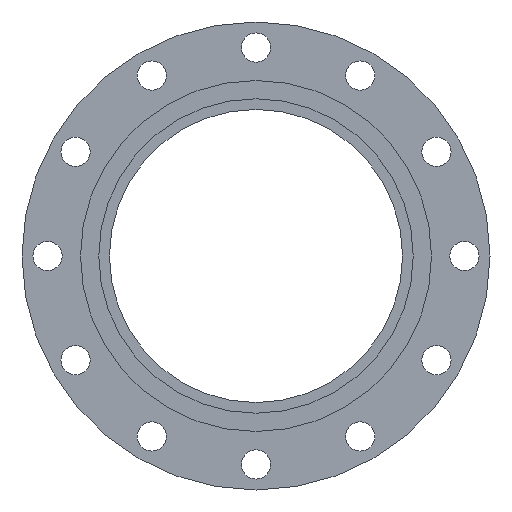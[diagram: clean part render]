
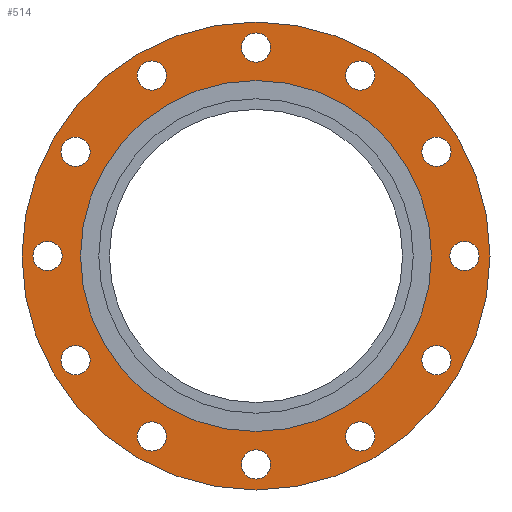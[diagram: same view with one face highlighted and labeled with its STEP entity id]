
A CAD part, left-side view. The second image highlights one B-rep face of the part: STEP entity #514.
In plain terms, the highlighted planar face has unit normal (-1, 0, 0).
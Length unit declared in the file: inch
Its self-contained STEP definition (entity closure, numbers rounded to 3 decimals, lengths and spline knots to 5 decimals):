
#14=FACE_BOUND('',#88,.T.);
#15=FACE_BOUND('',#89,.T.);
#16=FACE_BOUND('',#90,.T.);
#17=FACE_BOUND('',#91,.T.);
#18=FACE_BOUND('',#92,.T.);
#19=FACE_BOUND('',#93,.T.);
#20=FACE_BOUND('',#94,.T.);
#21=FACE_BOUND('',#95,.T.);
#22=FACE_BOUND('',#96,.T.);
#23=FACE_BOUND('',#97,.T.);
#24=FACE_BOUND('',#98,.T.);
#25=FACE_BOUND('',#99,.T.);
#26=FACE_BOUND('',#100,.T.);
#44=PLANE('',#586);
#63=FACE_OUTER_BOUND('',#87,.T.);
#87=EDGE_LOOP('',(#380,#381));
#88=EDGE_LOOP('',(#382));
#89=EDGE_LOOP('',(#383));
#90=EDGE_LOOP('',(#384));
#91=EDGE_LOOP('',(#385));
#92=EDGE_LOOP('',(#386));
#93=EDGE_LOOP('',(#387));
#94=EDGE_LOOP('',(#388));
#95=EDGE_LOOP('',(#389));
#96=EDGE_LOOP('',(#390));
#97=EDGE_LOOP('',(#391));
#98=EDGE_LOOP('',(#392));
#99=EDGE_LOOP('',(#393));
#100=EDGE_LOOP('',(#394,#395));
#165=CIRCLE('',#547,0.5);
#167=CIRCLE('',#550,0.5);
#169=CIRCLE('',#553,0.5);
#171=CIRCLE('',#556,0.5);
#173=CIRCLE('',#559,0.5);
#175=CIRCLE('',#562,0.5);
#177=CIRCLE('',#565,0.5);
#179=CIRCLE('',#568,0.5);
#181=CIRCLE('',#571,0.5);
#183=CIRCLE('',#574,0.5);
#185=CIRCLE('',#577,0.5);
#187=CIRCLE('',#580,0.5);
#188=CIRCLE('',#582,8.);
#189=CIRCLE('',#583,8.);
#192=CIRCLE('',#587,6.);
#193=CIRCLE('',#588,6.);
#213=VERTEX_POINT('',#785);
#215=VERTEX_POINT('',#791);
#217=VERTEX_POINT('',#797);
#219=VERTEX_POINT('',#803);
#221=VERTEX_POINT('',#809);
#223=VERTEX_POINT('',#815);
#225=VERTEX_POINT('',#821);
#227=VERTEX_POINT('',#827);
#229=VERTEX_POINT('',#833);
#231=VERTEX_POINT('',#839);
#233=VERTEX_POINT('',#845);
#235=VERTEX_POINT('',#851);
#236=VERTEX_POINT('',#855);
#237=VERTEX_POINT('',#856);
#240=VERTEX_POINT('',#865);
#241=VERTEX_POINT('',#866);
#262=EDGE_CURVE('',#213,#213,#165,.T.);
#265=EDGE_CURVE('',#215,#215,#167,.T.);
#268=EDGE_CURVE('',#217,#217,#169,.T.);
#271=EDGE_CURVE('',#219,#219,#171,.T.);
#274=EDGE_CURVE('',#221,#221,#173,.T.);
#277=EDGE_CURVE('',#223,#223,#175,.T.);
#280=EDGE_CURVE('',#225,#225,#177,.T.);
#283=EDGE_CURVE('',#227,#227,#179,.T.);
#286=EDGE_CURVE('',#229,#229,#181,.T.);
#289=EDGE_CURVE('',#231,#231,#183,.T.);
#292=EDGE_CURVE('',#233,#233,#185,.T.);
#295=EDGE_CURVE('',#235,#235,#187,.T.);
#296=EDGE_CURVE('',#236,#237,#188,.T.);
#297=EDGE_CURVE('',#237,#236,#189,.T.);
#301=EDGE_CURVE('',#240,#241,#192,.T.);
#302=EDGE_CURVE('',#241,#240,#193,.T.);
#380=ORIENTED_EDGE('',*,*,#296,.T.);
#381=ORIENTED_EDGE('',*,*,#297,.T.);
#382=ORIENTED_EDGE('',*,*,#262,.T.);
#383=ORIENTED_EDGE('',*,*,#265,.T.);
#384=ORIENTED_EDGE('',*,*,#268,.T.);
#385=ORIENTED_EDGE('',*,*,#271,.T.);
#386=ORIENTED_EDGE('',*,*,#274,.T.);
#387=ORIENTED_EDGE('',*,*,#277,.T.);
#388=ORIENTED_EDGE('',*,*,#280,.T.);
#389=ORIENTED_EDGE('',*,*,#283,.T.);
#390=ORIENTED_EDGE('',*,*,#286,.T.);
#391=ORIENTED_EDGE('',*,*,#289,.T.);
#392=ORIENTED_EDGE('',*,*,#292,.T.);
#393=ORIENTED_EDGE('',*,*,#295,.T.);
#394=ORIENTED_EDGE('',*,*,#301,.F.);
#395=ORIENTED_EDGE('',*,*,#302,.F.);
#514=ADVANCED_FACE('',(#63,#14,#15,#16,#17,#18,#19,#20,#21,#22,#23,#24,
#25,#26),#44,.T.);
#547=AXIS2_PLACEMENT_3D('',#787,#624,#625);
#550=AXIS2_PLACEMENT_3D('',#793,#631,#632);
#553=AXIS2_PLACEMENT_3D('',#799,#638,#639);
#556=AXIS2_PLACEMENT_3D('',#805,#645,#646);
#559=AXIS2_PLACEMENT_3D('',#811,#652,#653);
#562=AXIS2_PLACEMENT_3D('',#817,#659,#660);
#565=AXIS2_PLACEMENT_3D('',#823,#666,#667);
#568=AXIS2_PLACEMENT_3D('',#829,#673,#674);
#571=AXIS2_PLACEMENT_3D('',#835,#680,#681);
#574=AXIS2_PLACEMENT_3D('',#841,#687,#688);
#577=AXIS2_PLACEMENT_3D('',#847,#694,#695);
#580=AXIS2_PLACEMENT_3D('',#853,#701,#702);
#582=AXIS2_PLACEMENT_3D('',#857,#705,#706);
#583=AXIS2_PLACEMENT_3D('',#858,#707,#708);
#586=AXIS2_PLACEMENT_3D('',#864,#714,#715);
#587=AXIS2_PLACEMENT_3D('',#867,#716,#717);
#588=AXIS2_PLACEMENT_3D('',#868,#718,#719);
#624=DIRECTION('center_axis',(1.,0.,0.));
#625=DIRECTION('ref_axis',(0.,-0.5,0.866));
#631=DIRECTION('center_axis',(1.,0.,0.));
#632=DIRECTION('ref_axis',(0.,-0.866,0.5));
#638=DIRECTION('center_axis',(1.,0.,0.));
#639=DIRECTION('ref_axis',(0.,-1.,0.));
#645=DIRECTION('center_axis',(1.,0.,0.));
#646=DIRECTION('ref_axis',(0.,-0.866,-0.5));
#652=DIRECTION('center_axis',(1.,0.,0.));
#653=DIRECTION('ref_axis',(0.,-0.5,-0.866));
#659=DIRECTION('center_axis',(1.,0.,0.));
#660=DIRECTION('ref_axis',(0.,0.,-1.));
#666=DIRECTION('center_axis',(1.,0.,0.));
#667=DIRECTION('ref_axis',(0.,0.5,-0.866));
#673=DIRECTION('center_axis',(1.,0.,0.));
#674=DIRECTION('ref_axis',(0.,0.866,-0.5));
#680=DIRECTION('center_axis',(1.,0.,0.));
#681=DIRECTION('ref_axis',(0.,1.,0.));
#687=DIRECTION('center_axis',(1.,0.,0.));
#688=DIRECTION('ref_axis',(0.,0.866,0.5));
#694=DIRECTION('center_axis',(1.,0.,0.));
#695=DIRECTION('ref_axis',(0.,0.5,0.866));
#701=DIRECTION('center_axis',(1.,0.,0.));
#702=DIRECTION('ref_axis',(0.,0.,1.));
#705=DIRECTION('center_axis',(-1.,0.,0.));
#706=DIRECTION('ref_axis',(0.,0.,1.));
#707=DIRECTION('center_axis',(-1.,0.,0.));
#708=DIRECTION('ref_axis',(0.,0.,1.));
#714=DIRECTION('center_axis',(-1.,0.,0.));
#715=DIRECTION('ref_axis',(0.,0.,1.));
#716=DIRECTION('center_axis',(-1.,0.,0.));
#717=DIRECTION('ref_axis',(0.,0.,1.));
#718=DIRECTION('center_axis',(-1.,0.,0.));
#719=DIRECTION('ref_axis',(0.,0.,1.));
#785=CARTESIAN_POINT('',(-1.19,3.8125,-6.60344));
#787=CARTESIAN_POINT('Origin',(-1.19,3.5625,-6.17043));
#791=CARTESIAN_POINT('',(-1.19,6.60344,-3.8125));
#793=CARTESIAN_POINT('Origin',(-1.19,6.17043,-3.5625));
#797=CARTESIAN_POINT('',(-1.19,7.625,0.));
#799=CARTESIAN_POINT('Origin',(-1.19,7.125,0.));
#803=CARTESIAN_POINT('',(-1.19,6.60344,3.8125));
#805=CARTESIAN_POINT('Origin',(-1.19,6.17043,3.5625));
#809=CARTESIAN_POINT('',(-1.19,3.8125,6.60344));
#811=CARTESIAN_POINT('Origin',(-1.19,3.5625,6.17043));
#815=CARTESIAN_POINT('',(-1.19,0.,7.625));
#817=CARTESIAN_POINT('Origin',(-1.19,0.,7.125));
#821=CARTESIAN_POINT('',(-1.19,-3.8125,6.60344));
#823=CARTESIAN_POINT('Origin',(-1.19,-3.5625,6.17043));
#827=CARTESIAN_POINT('',(-1.19,-6.60344,3.8125));
#829=CARTESIAN_POINT('Origin',(-1.19,-6.17043,3.5625));
#833=CARTESIAN_POINT('',(-1.19,-7.625,0.));
#835=CARTESIAN_POINT('Origin',(-1.19,-7.125,0.));
#839=CARTESIAN_POINT('',(-1.19,-6.60344,-3.8125));
#841=CARTESIAN_POINT('Origin',(-1.19,-6.17043,-3.5625));
#845=CARTESIAN_POINT('',(-1.19,-3.8125,-6.60344));
#847=CARTESIAN_POINT('Origin',(-1.19,-3.5625,-6.17043));
#851=CARTESIAN_POINT('',(-1.19,0.,-7.625));
#853=CARTESIAN_POINT('Origin',(-1.19,0.,-7.125));
#855=CARTESIAN_POINT('',(-1.19,0.,8.));
#856=CARTESIAN_POINT('',(-1.19,0.,-8.));
#857=CARTESIAN_POINT('Origin',(-1.19,0.,0.));
#858=CARTESIAN_POINT('Origin',(-1.19,0.,0.));
#864=CARTESIAN_POINT('Origin',(-1.19,0.,7.));
#865=CARTESIAN_POINT('',(-1.19,0.,6.));
#866=CARTESIAN_POINT('',(-1.19,0.,-6.));
#867=CARTESIAN_POINT('Origin',(-1.19,0.,0.));
#868=CARTESIAN_POINT('Origin',(-1.19,0.,0.));
